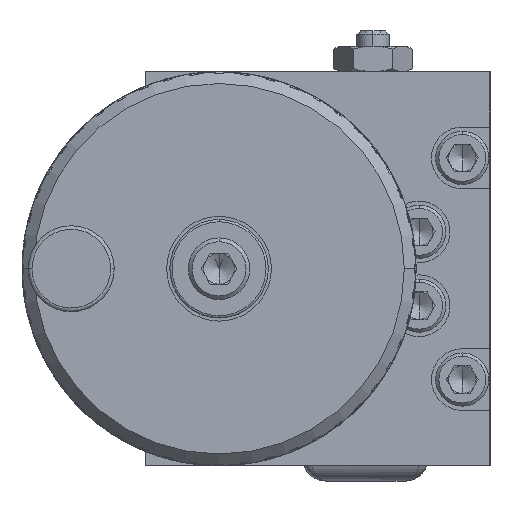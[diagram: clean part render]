
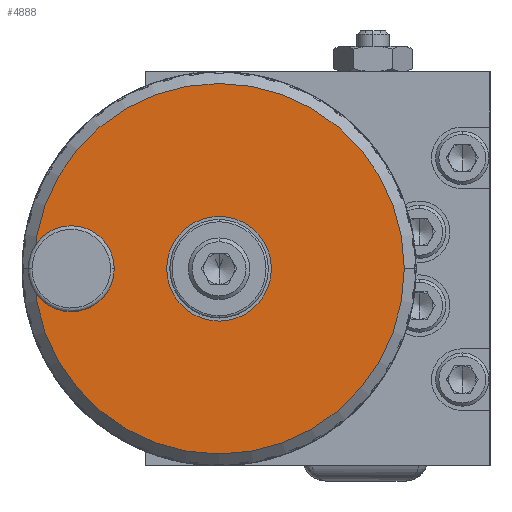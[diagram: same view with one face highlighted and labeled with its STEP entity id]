
A CAD part, left-side view. The second image highlights one B-rep face of the part: STEP entity #4888.
In plain terms, the highlighted planar face has unit normal (-1, 0, 0) as drawn and (0, 0, 1) by its records, which use the part's own axes.
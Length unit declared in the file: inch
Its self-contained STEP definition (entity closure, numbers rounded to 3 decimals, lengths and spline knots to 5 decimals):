
#16 = AXIS2_PLACEMENT_3D ( 'NONE', #46596, #46597, #46598 ) ;
#1269 = CARTESIAN_POINT ( 'NONE',  ( 0., 0., 0.5625 ) ) ;
#1270 = DIRECTION ( 'NONE',  ( 0., 0., 1. ) ) ;
#1271 = DIRECTION ( 'NONE',  ( 1., 0., 0. ) ) ;
#1317 = CARTESIAN_POINT ( 'NONE',  ( 0., 0.75, 0.5625 ) ) ;
#1318 = DIRECTION ( 'NONE',  ( 0., 0., 1. ) ) ;
#1319 = DIRECTION ( 'NONE',  ( 1., 0., 0. ) ) ;
#4888 = ADVANCED_FACE ( 'NONE', ( #14032, #14022, #14037 ), #14040, .F. ) ;
#7822 = ORIENTED_EDGE ( 'NONE', *, *, #28147, .F. ) ;
#7824 = ORIENTED_EDGE ( 'NONE', *, *, #65011, .F. ) ;
#7827 = ORIENTED_EDGE ( 'NONE', *, *, #28151, .F. ) ;
#7829 = ORIENTED_EDGE ( 'NONE', *, *, #65019, .F. ) ;
#7832 = ORIENTED_EDGE ( 'NONE', *, *, #28155, .T. ) ;
#7834 = ORIENTED_EDGE ( 'NONE', *, *, #57210, .T. ) ;
#14022 = FACE_BOUND ( 'NONE', #20286, .T. ) ;
#14027 = DIRECTION ( 'NONE',  ( 0., 0., -1. ) ) ;
#14032 = FACE_BOUND ( 'NONE', #20307, .T. ) ;
#14034 = CARTESIAN_POINT ( 'NONE',  ( 0., 1., 0.5625 ) ) ;
#14037 = FACE_OUTER_BOUND ( 'NONE', #20299, .T. ) ;
#14040 = PLANE ( 'NONE',  #50351 ) ;
#14042 = DIRECTION ( 'NONE',  ( 0., 1., 0. ) ) ;
#16711 = CIRCLE ( 'NONE', #16720, 0.26563 ) ;
#16718 = CIRCLE ( 'NONE', #16730, 0.07475 ) ;
#16720 = AXIS2_PLACEMENT_3D ( 'NONE', #1269, #1270, #1271 ) ;
#16730 = AXIS2_PLACEMENT_3D ( 'NONE', #1317, #1318, #1319 ) ;
#20286 = EDGE_LOOP ( 'NONE', ( #7827, #7829 ) ) ;
#20299 = EDGE_LOOP ( 'NONE', ( #7832, #7834 ) ) ;
#20307 = EDGE_LOOP ( 'NONE', ( #7822, #7824 ) ) ;
#20673 = VERTEX_POINT ( 'NONE', #39346 ) ;
#20674 = VERTEX_POINT ( 'NONE', #39347 ) ;
#20679 = VERTEX_POINT ( 'NONE', #39353 ) ;
#20680 = VERTEX_POINT ( 'NONE', #39354 ) ;
#21168 = VERTEX_POINT ( 'NONE', #39895 ) ;
#21174 = VERTEX_POINT ( 'NONE', #39901 ) ;
#28147 = EDGE_CURVE ( 'NONE', #20674, #20673, #51352, .T. ) ;
#28151 = EDGE_CURVE ( 'NONE', #20680, #20679, #51354, .T. ) ;
#28155 = EDGE_CURVE ( 'NONE', #21168, #21174, #34942, .T. ) ;
#32763 = CARTESIAN_POINT ( 'NONE',  ( 0., 0., 0.5625 ) ) ;
#32765 = DIRECTION ( 'NONE',  ( 0., 0., 1. ) ) ;
#32767 = DIRECTION ( 'NONE',  ( 0., 1., 0. ) ) ;
#34942 = CIRCLE ( 'NONE', #34944, 0.94 ) ;
#34944 = AXIS2_PLACEMENT_3D ( 'NONE', #46599, #46600, #46601 ) ;
#36689 = AXIS2_PLACEMENT_3D ( 'NONE', #32763, #32765, #32767 ) ;
#39346 = CARTESIAN_POINT ( 'NONE',  ( -0.26563, 0., 0.5625 ) ) ;
#39347 = CARTESIAN_POINT ( 'NONE',  ( 0.26563, 0., 0.5625 ) ) ;
#39353 = CARTESIAN_POINT ( 'NONE',  ( -0.07475, 0.75, 0.5625 ) ) ;
#39354 = CARTESIAN_POINT ( 'NONE',  ( 0.07475, 0.75, 0.5625 ) ) ;
#39895 = CARTESIAN_POINT ( 'NONE',  ( 0., 0.94, 0.5625 ) ) ;
#39901 = CARTESIAN_POINT ( 'NONE',  ( 0., -0.94, 0.5625 ) ) ;
#46593 = CARTESIAN_POINT ( 'NONE',  ( 0., 0., 0.5625 ) ) ;
#46594 = DIRECTION ( 'NONE',  ( 0., 0., 1. ) ) ;
#46595 = DIRECTION ( 'NONE',  ( 1., 0., 0. ) ) ;
#46596 = CARTESIAN_POINT ( 'NONE',  ( 0., 0.75, 0.5625 ) ) ;
#46597 = DIRECTION ( 'NONE',  ( 0., 0., 1. ) ) ;
#46598 = DIRECTION ( 'NONE',  ( 1., 0., 0. ) ) ;
#46599 = CARTESIAN_POINT ( 'NONE',  ( 0., 0., 0.5625 ) ) ;
#46600 = DIRECTION ( 'NONE',  ( 0., 0., 1. ) ) ;
#46601 = DIRECTION ( 'NONE',  ( 0., 1., 0. ) ) ;
#50351 = AXIS2_PLACEMENT_3D ( 'NONE', #14034, #14027, #14042 ) ;
#51352 = CIRCLE ( 'NONE', #51356, 0.26563 ) ;
#51354 = CIRCLE ( 'NONE', #16, 0.07475 ) ;
#51356 = AXIS2_PLACEMENT_3D ( 'NONE', #46593, #46594, #46595 ) ;
#51357 = CIRCLE ( 'NONE', #36689, 0.94 ) ;
#57210 = EDGE_CURVE ( 'NONE', #21174, #21168, #51357, .T. ) ;
#65011 = EDGE_CURVE ( 'NONE', #20673, #20674, #16711, .T. ) ;
#65019 = EDGE_CURVE ( 'NONE', #20679, #20680, #16718, .T. ) ;
